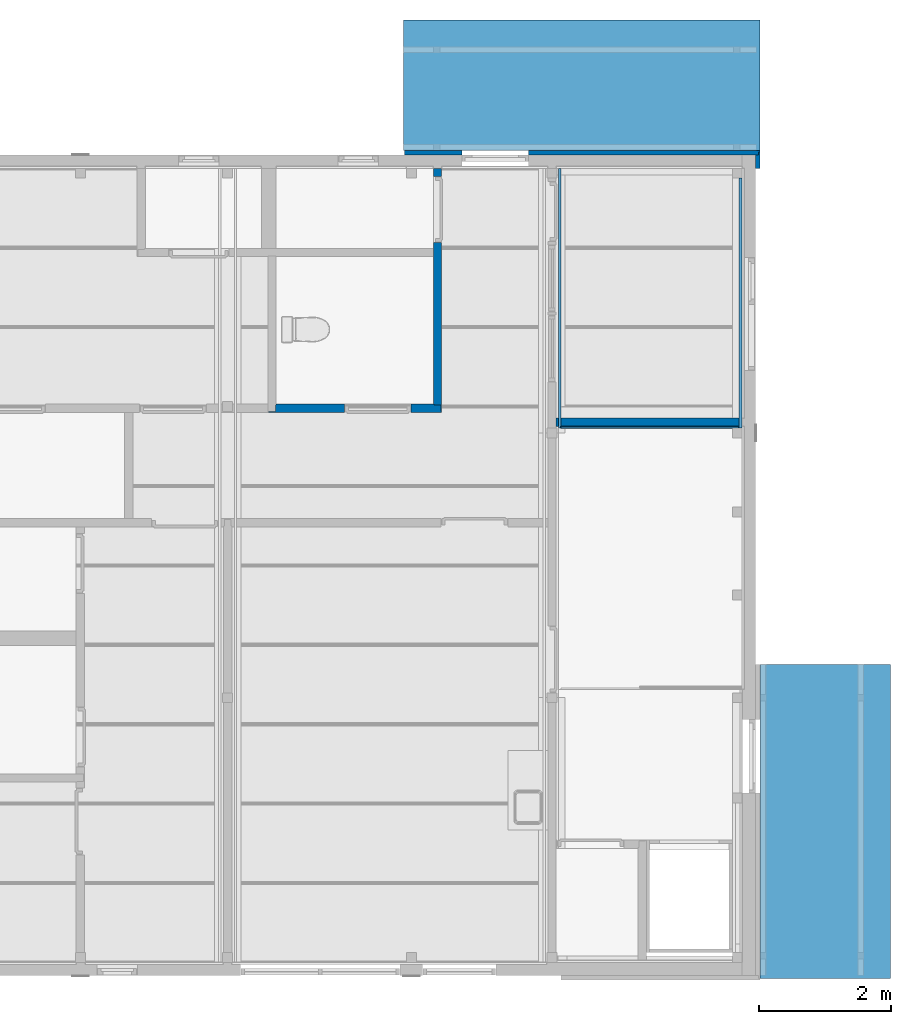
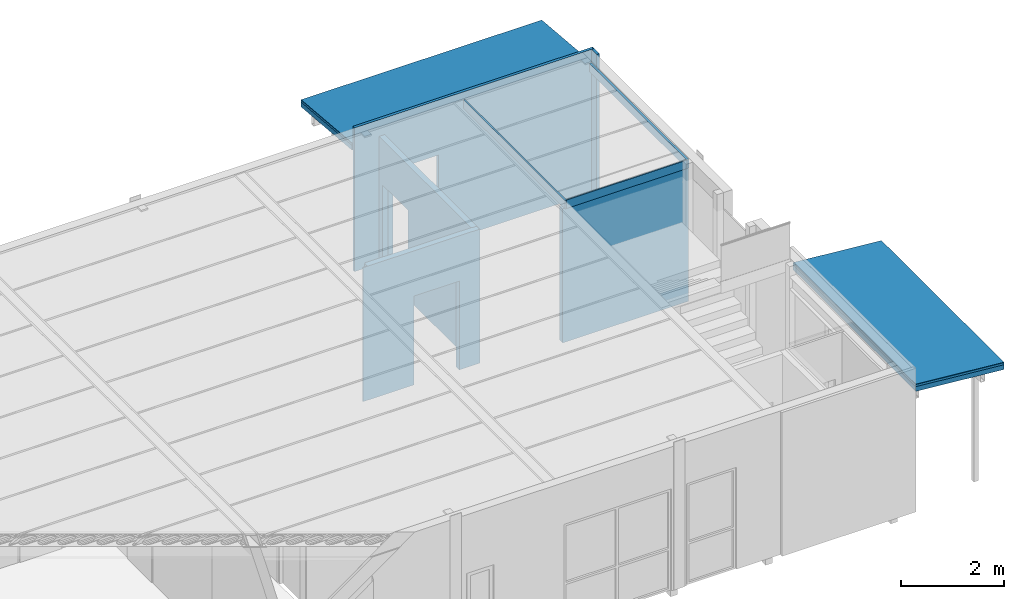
# One storey, part 4 of 45: 8 walls, 6 building element parts, 3 openings, 4 elements without a shape of their own.
"""IFC2X3 building model written with IfcOpenShell, lengths in millimetres."""

from ifc_helpers import new_model, entity, si_unit, converted_unit, frame, frame_2d, origin, origin_with_axes, place, context, subcontext, project, spatial, polyline, rectangle, outline, extrude, faceted_brep, material, layer, layer_set, layer_usage, element, aggregate, save


model = new_model("IFC2X3")

# Units and contexts
model_context = context("Model", 3, precision=1e-05, world=origin())
plan_context = context("Plan", 3, precision=1e-05, world=origin())
body_context = subcontext(model_context, "Body", "Model", "MODEL_VIEW")
ifc_project = project(units=[si_unit("LENGTHUNIT", "METRE", prefix="MILLI"), converted_unit("PLANEANGLEUNIT", "DEGREE", entity("IfcPlaneAngleMeasure", 0.0174532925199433), si_unit("PLANEANGLEUNIT", "RADIAN"), dimensions=[0, 0, 0, 0, 0, 0, 0]), si_unit("AREAUNIT", "SQUARE_METRE"), si_unit("VOLUMEUNIT", "CUBIC_METRE")], contexts=[model_context, plan_context])

# Building, storey
building_placement = place(None, origin())
building = spatial("IfcBuilding", under=ifc_project, at=building_placement, Name="HEKF Administrasjonbygg", CompositionType="ELEMENT")
storey_placement = place(building_placement, frame((0.0, 0.0, 6500.0), z_axis=(0.0, 0.0, 1.0), x_axis=(1.0, 0.0, 0.0)))
storey = spatial("IfcBuildingStorey", under=building, at=storey_placement, Name="Plan 1", CompositionType="ELEMENT", Elevation=6500.0)

# Wall
ifc_material_1 = material(Name="Lekter")
ifc_layer_1 = layer(ifc_material_1, 46.0)
ifc_material_2 = material(Name="Kledning")
ifc_layer_2 = layer(ifc_material_2, 19.0)
ifc_layer_set_1 = layer_set([ifc_layer_1, ifc_layer_2])
ifc_layer_usage_1 = layer_usage(ifc_layer_set_1, "AXIS2", "POSITIVE", 0.0)
wall_1_placement = place(storey_placement, frame((30200.0, 200.0, 0.0), z_axis=(0.0, 0.0, 1.0), x_axis=(0.0, -1.0, 0.0)))
element("IfcWallStandardCase", 1, at=wall_1_placement, inside=storey, material=ifc_layer_usage_1, context=body_context, shape_type="SweptSolid", body=[
    extrude(outline(polyline([(-46.0, 65.0), (-46.0, 46.0), (0.0, 46.0), (0.0, 0.0), (200.0, 0.0), (200.0, 65.0), (-46.0, 65.0)])), origin_with_axes(), (0.0, 0.0, 1.0), 3400.0),
])

# Wall, opening
ifc_material_3 = material(Name="Lekter")
ifc_layer_3 = layer(ifc_material_3, 46.00000000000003)
ifc_material_4 = material(Name="Kledning")
ifc_layer_4 = layer(ifc_material_4, 19.00000000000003)
ifc_layer_set_2 = layer_set([ifc_layer_3, ifc_layer_4])
ifc_layer_usage_2 = layer_usage(ifc_layer_set_2, "AXIS2", "POSITIVE", 0.0)
wall_2_placement = place(storey_placement, frame((24900.0, 200.0000000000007, 0.0), z_axis=(0.0, 0.0, 1.0), x_axis=(0.9999999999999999, -1.275946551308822e-16, 0.0)))
wall_2 = element("IfcWallStandardCase", 2, at=wall_2_placement, inside=storey, material=ifc_layer_usage_2, context=body_context, shape_type="SweptSolid", body=[
    extrude(outline(polyline([(0.0, 0.0), (5345.999999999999, 0.0), (5345.999999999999, 45.99999999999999), (5364.999999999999, 45.99999999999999), (5364.999999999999, 64.99999999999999), (-8.29365258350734e-15, 64.99999999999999), (0.0, 0.0)])), origin_with_axes(), (0.0, 0.0, 1.0), 3400.0),
])
opening_1_placement = place(wall_2_placement, frame((863.5136837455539, -1.551669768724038e-14, 0.0), z_axis=(0.0, 1.0, 0.0), x_axis=(0.0, 0.0, 1.0)))
element("IfcOpeningElement", 3, at=opening_1_placement, cuts=wall_2, Name="Door opening", ObjectType="Opening", context=body_context, shape_type="SweptSolid", body=[
    extrude(rectangle(XDim=2100.0, YDim=1010.0, at=frame_2d((1050.0, 505.0), x_axis=(1.0, 0.0))), origin_with_axes(), (0.0, 0.0, 1.0), 65.0),
])

# Wall
ifc_material_5 = material(Name="gips")
ifc_layer_5 = layer(ifc_material_5, 13.0)
ifc_material_6 = material(Name="riegel stål 100")
ifc_layer_6 = layer(ifc_material_6, 100.0)
ifc_material_7 = material(Name="gips")
ifc_layer_7 = layer(ifc_material_7, 13.0)
ifc_layer_set_3 = layer_set([ifc_layer_5, ifc_layer_6, ifc_layer_7])
ifc_layer_usage_3 = layer_usage(ifc_layer_set_3, "AXIS2", "POSITIVE", 0.0)
wall_3_placement = place(storey_placement, frame((27188.53680645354, -3900.000000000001, 0.0), z_axis=(0.0, 0.0, 1.0), x_axis=(1.0, 0.0, 0.0)))
element("IfcWallStandardCase", 4, at=wall_3_placement, inside=storey, material=ifc_layer_usage_3, context=body_context, shape_type="SweptSolid", body=[
    extrude(rectangle(XDim=2811.463193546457, YDim=126.0, at=frame_2d((1405.731596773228, 63.0), x_axis=(1.0, 0.0))), origin_with_axes(), (0.0, 0.0, 1.0), 3170.0),
])

# Wall, opening
ifc_material_8 = material(Name="gips")
ifc_layer_8 = layer(ifc_material_8, 13.0)
ifc_material_9 = material(Name="riegel stål 100")
ifc_layer_9 = layer(ifc_material_9, 100.0)
ifc_material_10 = material(Name="gips")
ifc_layer_10 = layer(ifc_material_10, 13.0)
ifc_layer_set_4 = layer_set([ifc_layer_8, ifc_layer_9, ifc_layer_10])
ifc_layer_usage_4 = layer_usage(ifc_layer_set_4, "AXIS2", "POSITIVE", 0.0)
wall_4_placement = place(storey_placement, frame((25332.53680645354, 0.0, 0.0), z_axis=(0.0, 0.0, 1.0), x_axis=(0.0, -1.0, 0.0)))
wall_4 = element("IfcWallStandardCase", 5, at=wall_4_placement, inside=storey, material=ifc_layer_usage_4, context=body_context, shape_type="SweptSolid", body=[
    extrude(outline(polyline([(0.0, 0.0), (3561.0, 0.0), (3561.0, 13.0), (3574.0, 13.0), (3574.0, 113.0), (3674.0, 113.0), (3674.0, 126.0), (0.0, 126.0), (0.0, 0.0)])), origin_with_axes(), (0.0, 0.0, 1.0), 3170.0),
])
opening_2_placement = place(wall_4_placement, frame((124.0, 0.0, 0.0), z_axis=(0.0, 1.0, 0.0), x_axis=(0.0, 0.0, 1.0)))
element("IfcOpeningElement", 6, at=opening_2_placement, cuts=wall_4, Name="D026", ObjectType="Opening", context=body_context, shape_type="SweptSolid", body=[
    extrude(rectangle(XDim=2100.0, YDim=1000.0, at=frame_2d((1050.0, 500.0), x_axis=(1.0, 0.0))), origin_with_axes(), (0.0, 0.0, 1.0), 126.0),
])

ifc_material_11 = material(Name="gips")
ifc_layer_11 = layer(ifc_material_11, 13.00000000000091)
ifc_material_12 = material(Name="riegel stål 100")
ifc_layer_12 = layer(ifc_material_12, 100.0)
ifc_material_13 = material(Name="gips")
ifc_layer_13 = layer(ifc_material_13, 13.0)
ifc_layer_set_5 = layer_set([ifc_layer_11, ifc_layer_12, ifc_layer_13])
ifc_layer_usage_5 = layer_usage(ifc_layer_set_5, "AXIS2", "POSITIVE", 0.0)
wall_5_placement = place(storey_placement, frame((18350.0, -3687.0, 0.0), z_axis=(0.0, 0.0, 1.0), x_axis=(1.0, -6.397200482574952e-17, 0.0)))
wall_5 = element("IfcWallStandardCase", 7, at=wall_5_placement, inside=storey, material=ifc_layer_usage_5, context=body_context, shape_type="SweptSolid", body=[
    extrude(outline(polyline([(4495.536806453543, 12.99999999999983), (4495.536806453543, -1.671588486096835e-13), (7108.536806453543, 0.0), (7108.536806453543, 13.0), (7095.536806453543, 13.0), (7095.536806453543, 113.0), (6995.536806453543, 113.0), (6995.536806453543, 126.0), (4608.536806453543, 125.9999999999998), (4608.536806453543, 112.9999999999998), (4595.536806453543, 112.9999999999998), (4595.536806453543, 12.99999999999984), (4495.536806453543, 12.99999999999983)])), origin_with_axes(), (0.0, 0.0, 1.0), 3170.0),
])
opening_3_placement = place(wall_5_placement, frame((5637.834868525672, -4.547473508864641e-13, 0.0), z_axis=(0.0, 1.0, 0.0), x_axis=(0.0, 0.0, 1.0)))
element("IfcOpeningElement", 8, at=opening_3_placement, cuts=wall_5, Name="D025", ObjectType="Opening", context=body_context, shape_type="SweptSolid", body=[
    extrude(rectangle(XDim=2100.0, YDim=1010.0, at=frame_2d((1050.0, 505.0), x_axis=(1.0, 0.0))), origin_with_axes(), (0.0, 0.0, 1.0), 125.9999999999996),
])

# Walls
ifc_material_14 = material(Name="Betong")
ifc_layer_14 = layer(ifc_material_14, 35.0)
ifc_layer_set_6 = layer_set([ifc_layer_14])
ifc_layer_usage_6 = layer_usage(ifc_layer_set_6, "AXIS2", "POSITIVE", 0.0)
wall_6_placement = place(storey_placement, frame((27260.53680645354, -3924.999999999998, 3170.0), z_axis=(0.0, 0.0, 1.0), x_axis=(0.0, 1.0, 0.0)))
element("IfcWallStandardCase", 9, at=wall_6_placement, inside=storey, material=ifc_layer_usage_6, context=body_context, shape_type="SweptSolid", body=[
    extrude(rectangle(XDim=3924.999999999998, YDim=35.0, at=frame_2d((1962.499999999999, 17.5), x_axis=(1.0, 0.0))), origin_with_axes(), (0.0, 0.0, 1.0), 200.0),
])
ifc_material_15 = material(Name="Betong")
ifc_layer_15 = layer(ifc_material_15, 49.99999999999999)
ifc_layer_set_7 = layer_set([ifc_layer_15])
ifc_layer_usage_7 = layer_usage(ifc_layer_set_7, "AXIS2", "POSITIVE", 0.0)
wall_7_placement = place(storey_placement, frame((29950.0, -150.0, 3170.0), z_axis=(0.0, 0.0, 1.0), x_axis=(0.0, -0.9999999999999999, 0.0)))
element("IfcWallStandardCase", 10, at=wall_7_placement, inside=storey, material=ifc_layer_usage_7, context=body_context, shape_type="SweptSolid", body=[
    extrude(rectangle(XDim=3774.999999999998, YDim=49.99999999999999, at=frame_2d((1887.499999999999, 25.0), x_axis=(1.0, 0.0))), origin_with_axes(), (0.0, 0.0, 1.0), 200.0),
])
ifc_material_16 = material(Name="Betong")
ifc_layer_16 = layer(ifc_material_16, 25.0)
ifc_layer_set_8 = layer_set([ifc_layer_16])
ifc_layer_usage_8 = layer_usage(ifc_layer_set_8, "AXIS2", "POSITIVE", 0.0)
wall_8_placement = place(storey_placement, frame((29950.0, -3899.999999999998, 3170.0), z_axis=(0.0, 0.0, 1.0), x_axis=(-1.0, 0.0, 0.0)))
element("IfcWallStandardCase", 11, at=wall_8_placement, inside=storey, material=ifc_layer_usage_8, context=body_context, shape_type="SweptSolid", body=[
    extrude(rectangle(XDim=2689.46319354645, YDim=25.0, at=frame_2d((1344.731596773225, 12.5), x_axis=(1.0, 0.0))), origin_with_axes(), (0.0, 0.0, 1.0), 200.0),
])

# Roof, slab, building element parts
roof_1_placement = place(storey_placement, frame((0.0, 0.0, -6500.0), z_axis=(0.0, 0.0, 1.0), x_axis=(1.0, 0.0, 0.0)))
roof_1 = element("IfcRoof", 12, at=roof_1_placement, inside=storey, ShapeType="NOTDEFINED")
slab_1_placement = place(roof_1_placement, origin_with_axes())
slab_1 = element("IfcSlab", 13, at=slab_1_placement, PredefinedType="ROOF")
aggregate(roof_1, [slab_1])
ifc_material_17 = material(Name="dERBIGUM")
building_element_part_1_placement = place(slab_1_placement, origin_with_axes())
building_element_part_1 = element("IfcBuildingElementPart", 14, at=building_element_part_1_placement, material=ifc_material_17, context=body_context, shape_type="Brep", body=[
    faceted_brep([(30265.0, -12246.0, 9499.409638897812), (32240.0, -12246.0, 9326.61952843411), (32240.0, -7500.0, 9326.61952843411), (30265.0, -7500.0, 9499.409638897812), (30265.0, -12246.0, 9509.447837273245), (30265.0, -7500.0, 9509.447837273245), (32240.0, -7500.0, 9336.657726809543), (32240.0, -12246.0, 9336.657726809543), (32240.0, -12246.0, 9336.657726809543), (32240.0, -7500.0, 9336.657726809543), (32240.0, -7500.0, 9326.61952843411), (32240.0, -12246.0, 9326.61952843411), (32240.0, -7500.0, 9336.657726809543), (30265.0, -7500.0, 9509.447837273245), (30265.0, -7500.0, 9499.409638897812), (32240.0, -7500.0, 9326.61952843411), (30265.0, -7500.0, 9509.447837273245), (30265.0, -12246.0, 9509.447837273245), (30265.0, -12246.0, 9499.409638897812), (30265.0, -7500.0, 9499.409638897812), (30265.0, -12246.0, 9509.447837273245), (32240.0, -12246.0, 9336.657726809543), (32240.0, -12246.0, 9326.61952843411), (30265.0, -12246.0, 9499.409638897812)], [[[0, 1, 2, 3]], [[4, 5, 6, 7]], [[8, 9, 10, 11]], [[12, 13, 14, 15]], [[16, 17, 18, 19]], [[20, 21, 22, 23]]], orient=[[False], [False], [False], [False], [False], [False]]),
])
ifc_material_18 = material(Name="RW 300")
building_element_part_2_placement = place(slab_1_placement, origin_with_axes())
building_element_part_2 = element("IfcBuildingElementPart", 15, at=building_element_part_2_placement, material=ifc_material_18, context=body_context, shape_type="Brep", body=[
    faceted_brep([(30265.0, -12246.0, 9449.218647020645), (32240.0, -12246.0, 9276.428536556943), (32240.0, -7500.0, 9276.428536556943), (30265.0, -7500.0, 9449.218647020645), (30265.0, -12246.0, 9499.409638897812), (30265.0, -7500.0, 9499.409638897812), (32240.0, -7500.0, 9326.61952843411), (32240.0, -12246.0, 9326.61952843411), (32240.0, -12246.0, 9326.61952843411), (32240.0, -7500.0, 9326.61952843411), (32240.0, -7500.0, 9276.428536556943), (32240.0, -12246.0, 9276.428536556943), (32240.0, -7500.0, 9326.61952843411), (30265.0, -7500.0, 9499.409638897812), (30265.0, -7500.0, 9449.218647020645), (32240.0, -7500.0, 9276.428536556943), (30265.0, -7500.0, 9499.409638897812), (30265.0, -12246.0, 9499.409638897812), (30265.0, -12246.0, 9449.218647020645), (30265.0, -7500.0, 9449.218647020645), (30265.0, -12246.0, 9499.409638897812), (32240.0, -12246.0, 9326.61952843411), (32240.0, -12246.0, 9276.428536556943), (30265.0, -12246.0, 9449.218647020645)], [[[0, 1, 2, 3]], [[4, 5, 6, 7]], [[8, 9, 10, 11]], [[12, 13, 14, 15]], [[16, 17, 18, 19]], [[20, 21, 22, 23]]], orient=[[False], [False], [False], [False], [False], [False]]),
])
ifc_material_19 = material(Name="TRP111")
building_element_part_3_placement = place(slab_1_placement, origin_with_axes())
building_element_part_3 = element("IfcBuildingElementPart", 16, at=building_element_part_3_placement, material=ifc_material_19, context=body_context, shape_type="Brep", body=[
    faceted_brep([(30265.0, -12246.0, 9337.794645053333), (32240.0, -12246.0, 9165.00453458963), (32240.0, -7500.0, 9165.00453458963), (30265.0, -7500.0, 9337.794645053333), (30265.0, -12246.0, 9449.218647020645), (30265.0, -7500.0, 9449.218647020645), (32240.0, -7500.0, 9276.428536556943), (32240.0, -12246.0, 9276.428536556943), (32240.0, -12246.0, 9276.428536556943), (32240.0, -7500.0, 9276.428536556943), (32240.0, -7500.0, 9165.00453458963), (32240.0, -12246.0, 9165.00453458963), (32240.0, -7500.0, 9276.428536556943), (30265.0, -7500.0, 9449.218647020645), (30265.0, -7500.0, 9337.794645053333), (32240.0, -7500.0, 9165.00453458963), (30265.0, -7500.0, 9449.218647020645), (30265.0, -12246.0, 9449.218647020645), (30265.0, -12246.0, 9337.794645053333), (30265.0, -7500.0, 9337.794645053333), (30265.0, -12246.0, 9449.218647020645), (32240.0, -12246.0, 9276.428536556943), (32240.0, -12246.0, 9165.00453458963), (30265.0, -12246.0, 9337.794645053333)], [[[0, 1, 2, 3]], [[4, 5, 6, 7]], [[8, 9, 10, 11]], [[12, 13, 14, 15]], [[16, 17, 18, 19]], [[20, 21, 22, 23]]], orient=[[False], [False], [False], [False], [False], [False]]),
])
aggregate(slab_1, [building_element_part_1, building_element_part_2, building_element_part_3])

roof_2_placement = place(storey_placement, frame((0.0, 0.0, -6500.0), z_axis=(0.0, 0.0, 1.0), x_axis=(1.0, 0.0, 0.0)))
roof_2 = element("IfcRoof", 17, at=roof_2_placement, inside=storey, ShapeType="NOTDEFINED")
slab_2_placement = place(roof_2_placement, origin_with_axes())
slab_2 = element("IfcSlab", 18, at=slab_2_placement, PredefinedType="ROOF")
aggregate(roof_2, [slab_2])
ifc_material_20 = material(Name="dERBIGUM")
building_element_part_4_placement = place(slab_2_placement, origin_with_axes())
building_element_part_4 = element("IfcBuildingElementPart", 19, at=building_element_part_4_placement, material=ifc_material_20, context=body_context, shape_type="Brep", body=[
    faceted_brep([(30265.0, 265.0, 9499.40963889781), (30265.0, 2240.000000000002, 9326.619528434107), (24882.90598115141, 2240.000000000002, 9326.619528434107), (24882.90598115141, 265.0000000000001, 9499.40963889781), (30265.0, 265.0, 9509.447837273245), (24882.90598115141, 265.0000000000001, 9509.447837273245), (24882.90598115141, 2240.000000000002, 9336.65772680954), (30265.0, 2240.000000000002, 9336.65772680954), (30265.0, 2240.000000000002, 9336.65772680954), (24882.90598115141, 2240.000000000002, 9336.65772680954), (24882.90598115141, 2240.000000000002, 9326.619528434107), (30265.0, 2240.000000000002, 9326.619528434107), (24882.90598115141, 2240.000000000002, 9336.65772680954), (24882.90598115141, 265.0000000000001, 9509.447837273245), (24882.90598115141, 265.0000000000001, 9499.40963889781), (24882.90598115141, 2240.000000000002, 9326.619528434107), (24882.90598115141, 265.0000000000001, 9509.447837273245), (30265.0, 265.0, 9509.447837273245), (30265.0, 265.0, 9499.40963889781), (24882.90598115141, 265.0000000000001, 9499.40963889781), (30265.0, 265.0, 9509.447837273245), (30265.0, 2240.000000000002, 9336.65772680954), (30265.0, 2240.000000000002, 9326.619528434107), (30265.0, 265.0, 9499.40963889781)], [[[0, 1, 2, 3]], [[4, 5, 6, 7]], [[8, 9, 10, 11]], [[12, 13, 14, 15]], [[16, 17, 18, 19]], [[20, 21, 22, 23]]], orient=[[False], [False], [False], [False], [False], [False]]),
])
ifc_material_21 = material(Name="RW 300")
building_element_part_5_placement = place(slab_2_placement, origin_with_axes())
building_element_part_5 = element("IfcBuildingElementPart", 20, at=building_element_part_5_placement, material=ifc_material_21, context=body_context, shape_type="Brep", body=[
    faceted_brep([(30265.0, 265.0, 9449.218647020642), (30265.0, 2240.000000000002, 9276.428536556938), (24882.90598115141, 2240.000000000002, 9276.428536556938), (24882.90598115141, 265.0000000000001, 9449.218647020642), (30265.0, 265.0, 9499.40963889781), (24882.90598115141, 265.0000000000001, 9499.40963889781), (24882.90598115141, 2240.000000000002, 9326.619528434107), (30265.0, 2240.000000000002, 9326.619528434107), (30265.0, 2240.000000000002, 9326.619528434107), (24882.90598115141, 2240.000000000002, 9326.619528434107), (24882.90598115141, 2240.000000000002, 9276.428536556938), (30265.0, 2240.000000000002, 9276.428536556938), (24882.90598115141, 2240.000000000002, 9326.619528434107), (24882.90598115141, 265.0000000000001, 9499.40963889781), (24882.90598115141, 265.0000000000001, 9449.218647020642), (24882.90598115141, 2240.000000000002, 9276.428536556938), (24882.90598115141, 265.0000000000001, 9499.40963889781), (30265.0, 265.0, 9499.40963889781), (30265.0, 265.0, 9449.218647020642), (24882.90598115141, 265.0000000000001, 9449.218647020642), (30265.0, 265.0, 9499.40963889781), (30265.0, 2240.000000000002, 9326.619528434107), (30265.0, 2240.000000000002, 9276.428536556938), (30265.0, 265.0, 9449.218647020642)], [[[0, 1, 2, 3]], [[4, 5, 6, 7]], [[8, 9, 10, 11]], [[12, 13, 14, 15]], [[16, 17, 18, 19]], [[20, 21, 22, 23]]], orient=[[False], [False], [False], [False], [False], [False]]),
])
ifc_material_22 = material(Name="TRP111")
building_element_part_6_placement = place(slab_2_placement, origin_with_axes())
building_element_part_6 = element("IfcBuildingElementPart", 21, at=building_element_part_6_placement, material=ifc_material_22, context=body_context, shape_type="Brep", body=[
    faceted_brep([(30265.0, 265.0, 9337.79464505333), (30265.0, 2240.000000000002, 9165.004534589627), (24882.90598115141, 2240.000000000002, 9165.004534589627), (24882.90598115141, 265.0000000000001, 9337.79464505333), (30265.0, 265.0, 9449.218647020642), (24882.90598115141, 265.0000000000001, 9449.218647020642), (24882.90598115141, 2240.000000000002, 9276.428536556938), (30265.0, 2240.000000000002, 9276.428536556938), (30265.0, 2240.000000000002, 9276.428536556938), (24882.90598115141, 2240.000000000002, 9276.428536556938), (24882.90598115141, 2240.000000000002, 9165.004534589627), (30265.0, 2240.000000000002, 9165.004534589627), (24882.90598115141, 2240.000000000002, 9276.428536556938), (24882.90598115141, 265.0000000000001, 9449.218647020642), (24882.90598115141, 265.0000000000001, 9337.79464505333), (24882.90598115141, 2240.000000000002, 9165.004534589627), (24882.90598115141, 265.0000000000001, 9449.218647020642), (30265.0, 265.0, 9449.218647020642), (30265.0, 265.0, 9337.79464505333), (24882.90598115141, 265.0000000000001, 9337.79464505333), (30265.0, 265.0, 9449.218647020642), (30265.0, 2240.000000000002, 9276.428536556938), (30265.0, 2240.000000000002, 9165.004534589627), (30265.0, 265.0, 9337.79464505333)], [[[0, 1, 2, 3]], [[4, 5, 6, 7]], [[8, 9, 10, 11]], [[12, 13, 14, 15]], [[16, 17, 18, 19]], [[20, 21, 22, 23]]], orient=[[False], [False], [False], [False], [False], [False]]),
])
aggregate(slab_2, [building_element_part_4, building_element_part_5, building_element_part_6])

save(model, "model.ifc")
